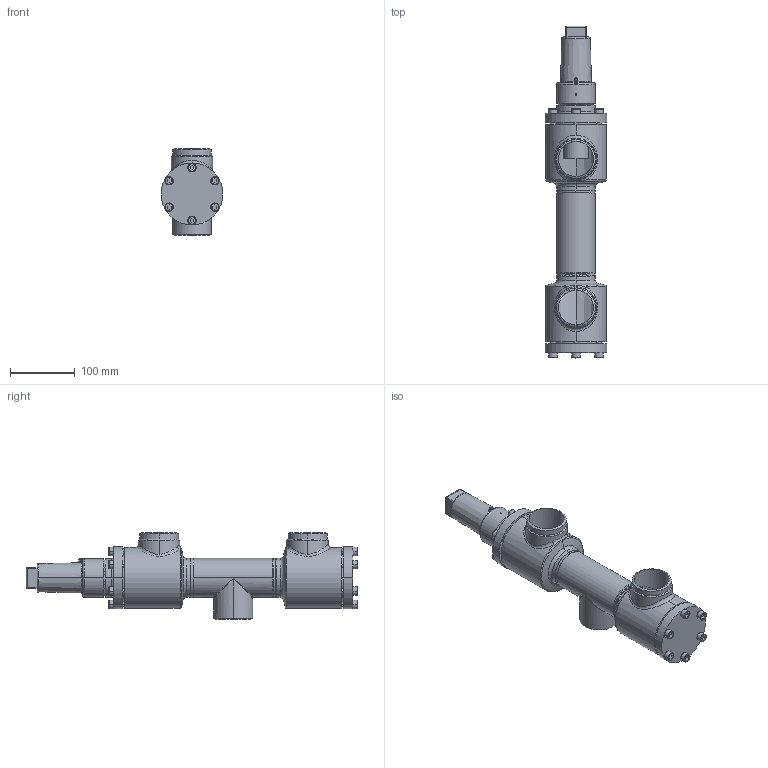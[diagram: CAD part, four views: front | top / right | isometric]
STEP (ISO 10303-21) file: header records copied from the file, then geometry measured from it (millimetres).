
FILE_DESCRIPTION (( 'STEP AP214' ), '1' );
FILE_NAME ('WVR24000D15-DN050_R1_PS40.STEP', '2010-09-08T08:22:28', ( 'Eckhard Grams' ), ( 'AWP Kälte Klima Armaturen GmbH' ), 'SwSTEP 2.0', 'SolidWorks 2002296', '' );
FILE_SCHEMA (( 'AUTOMOTIVE_DESIGN' ));
Length unit declared in the file: millimetre
Products named in the file (12): WVR24000D15-DN050_R1_PS40; WVB-R23000E15_Deck+Schr-DN40-50_Standard; Deckel23000E15-DN40-50_Standard; Kappe 16402-15_DN40-65 (M52x3)_Standard; AVR26300E15_Deck+Schr-DN40-50_Standard; Deckel26300E15-DN40-50_Standard; Zylinderschraube-DIN912_M 8x  25; Geh,kpl23000E15-DN050_R1_PS40_Standard; bead23000-15-2_Standard; bead23000-15-1_Standard; Gehäuse23000E15-DN050_R1_PS40_Standard; T-Stück DIN2615_DN 50
Assembly tree (23 placements, depth 3):
  WVR24000D15-DN050_R1_PS40
    Kappe 16402-15_DN40-65 (M52x3)_Standard
    Geh,kpl23000E15-DN050_R1_PS40_Standard
      Gehäuse23000E15-DN050_R1_PS40_Standard  x2
      T-Stück DIN2615_DN 50
      bead23000-15-1_Standard
      bead23000-15-2_Standard
    WVB-R23000E15_Deck+Schr-DN40-50_Standard
      Zylinderschraube-DIN912_M 8x  25  x6
      Deckel23000E15-DN40-50_Standard
    AVR26300E15_Deck+Schr-DN40-50_Standard
      Zylinderschraube-DIN912_M 8x  25  x6
      Deckel26300E15-DN40-50_Standard
Bounding box: 96 x 514 x 134 mm (x, y, z)
Volume: 1192179.3 mm3; surface area: 302979.2 mm2
Topology: 20 solids, 20 shells, 493 faces, 1099 edges, 679 vertices
Faces by surface type: plane 173, cylinder 172, cone 75, torus 49, bspline 24
Entity records: 28777 total; most frequent: CARTESIAN_POINT 22078, DIRECTION 1298, ORIENTED_EDGE 1180, EDGE_CURVE 590, AXIS2_PLACEMENT_3D 550, VERTEX_POINT 364, EDGE_LOOP 312, CIRCLE 286
